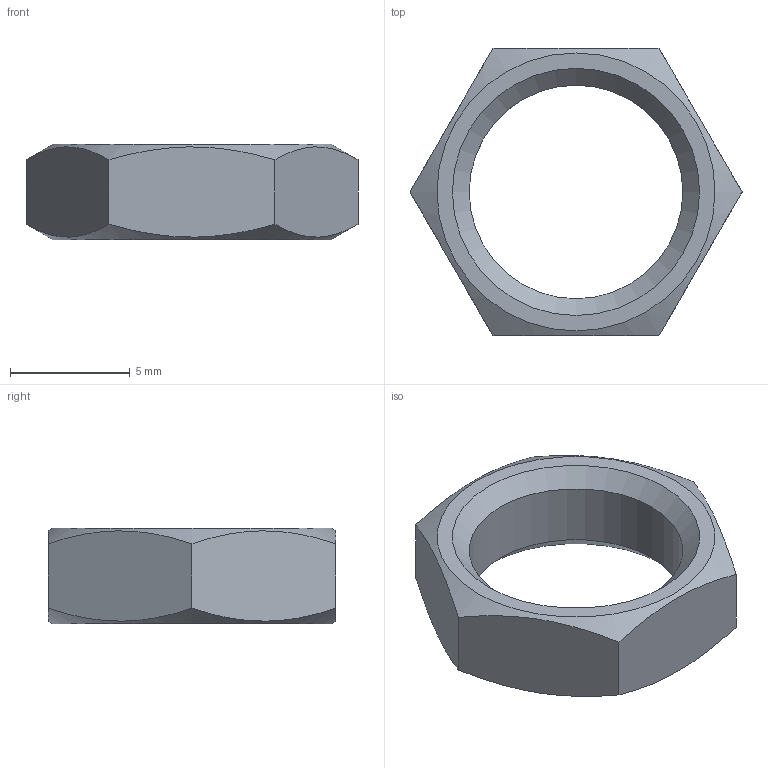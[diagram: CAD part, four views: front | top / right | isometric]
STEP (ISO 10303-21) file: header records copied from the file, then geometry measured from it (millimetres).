
FILE_DESCRIPTION((''),'2;1');
FILE_NAME('C:\Test\stp\4000108.stp','2008-03-18T11:03:49',('is'),(''),'Autodesk Inventor 10','Autodesk Inventor 10','');
FILE_SCHEMA(('AUTOMOTIVE_DESIGN { 1 0 10303 214 1 1 1 1 }'));
Length unit declared in the file: millimetre
Products named in the file (1): 6kt-Mutter M10x1 (4000108)
Bounding box: 13.86 x 12 x 4 mm (x, y, z)
Volume: 227.3 mm3; surface area: 362.1 mm2
Topology: 1 solids, 1 shells, 13 faces, 30 edges, 19 vertices
Faces by surface type: plane 8, cone 4, bspline 1
Entity records: 360 total; most frequent: CARTESIAN_POINT 97, ORIENTED_EDGE 48, DIRECTION 44, EDGE_CURVE 24, EDGE_LOOP 20, AXIS2_PLACEMENT_3D 19, VERTEX_POINT 18, FACE_OUTER_BOUND 13
